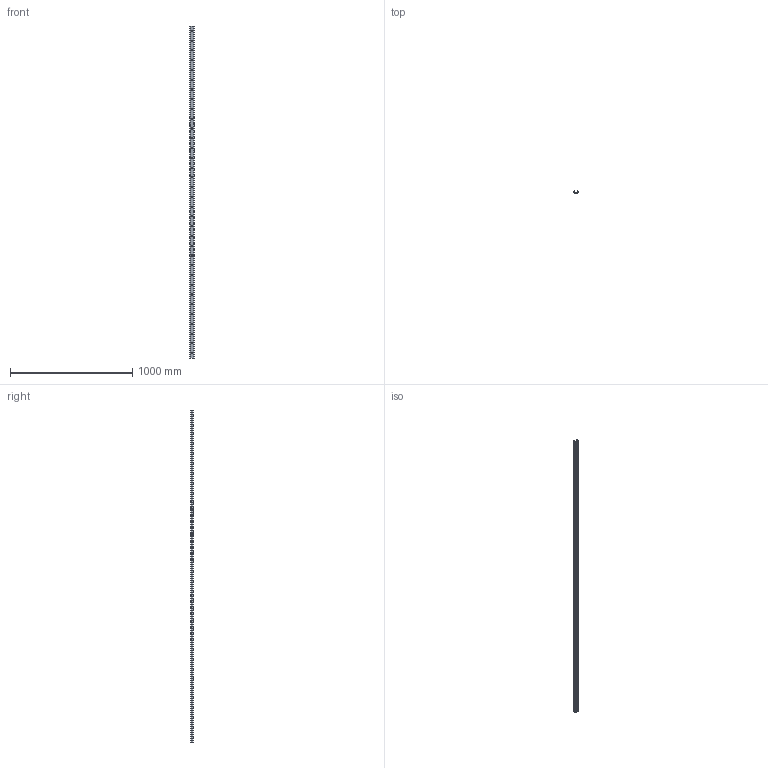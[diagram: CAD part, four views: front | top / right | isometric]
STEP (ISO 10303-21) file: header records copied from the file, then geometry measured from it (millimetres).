
FILE_DESCRIPTION(('STEP AP214'),'1');
FILE_NAME('rail_tex40-2720.stp','2019-03-08T08:33:42',('TraceParts'),('TraceParts S.A.'),'Spatial InterOp 3D',' ',' ');
FILE_SCHEMA(('automotive_design'));
Length unit declared in the file: millimetre
Products named in the file (1): rail_tex40-2720
Bounding box: 39.53 x 21 x 2720 mm (x, y, z)
Volume: 531796.9 mm3; surface area: 374600.2 mm2
Topology: 1 solids, 1 shells, 607 faces, 1572 edges, 1048 vertices
Faces by surface type: plane 428, bspline 99, cylinder 80
Entity records: 38513 total; most frequent: CARTESIAN_POINT 19131, ORIENTED_EDGE 3144, DIRECTION 2552, EDGE_CURVE 1572, LINE 1214, VECTOR 1214, VERTEX_POINT 1048, EDGE_LOOP 756
